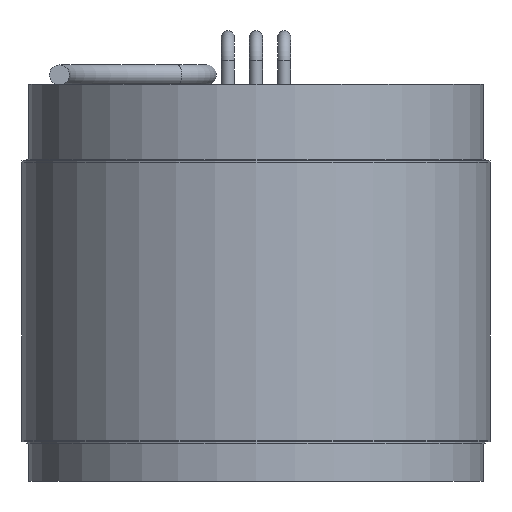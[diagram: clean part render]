
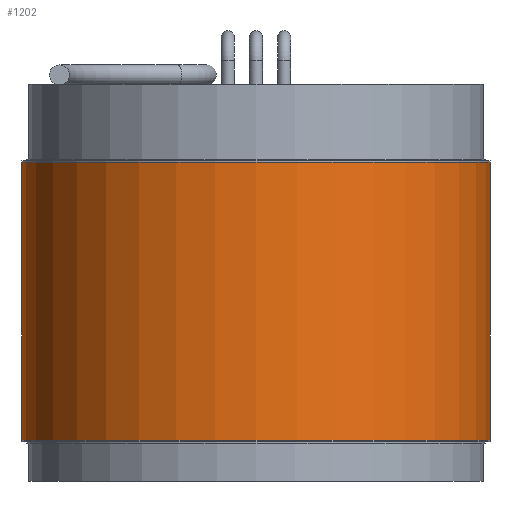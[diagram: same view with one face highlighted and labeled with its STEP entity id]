
A CAD part, front view. The second image highlights one B-rep face of the part: STEP entity #1202.
In plain terms, the highlighted cylindrical face has radius 31.75 mm (diameter 63.5 mm), a full revolution.
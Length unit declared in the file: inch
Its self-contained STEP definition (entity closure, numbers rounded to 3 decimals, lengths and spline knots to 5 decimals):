
#45 = ORIENTED_EDGE ( 'NONE', *, *, #632, .F. ) ;
#66 = CARTESIAN_POINT ( 'NONE',  ( 0., 0., 0.74213 ) ) ;
#154 = AXIS2_PLACEMENT_3D ( 'NONE', #66, #1272, #837 ) ;
#166 = DIRECTION ( 'NONE',  ( 0., 0., 1. ) ) ;
#176 = DIRECTION ( 'NONE',  ( 1., 0., 0. ) ) ;
#223 = CARTESIAN_POINT ( 'NONE',  ( 1.25, 0., -0.74213 ) ) ;
#342 = CARTESIAN_POINT ( 'NONE',  ( 1.25, 0., 0.74213 ) ) ;
#408 = EDGE_LOOP ( 'NONE', ( #646 ) ) ;
#474 = CIRCLE ( 'NONE', #154, 1.25 ) ;
#603 = CARTESIAN_POINT ( 'NONE',  ( 0., 0., -0.74213 ) ) ;
#618 = VERTEX_POINT ( 'NONE', #342 ) ;
#626 = EDGE_LOOP ( 'NONE', ( #45 ) ) ;
#632 = EDGE_CURVE ( 'NONE', #618, #618, #474, .T. ) ;
#646 = ORIENTED_EDGE ( 'NONE', *, *, #1205, .T. ) ;
#668 = AXIS2_PLACEMENT_3D ( 'NONE', #603, #936, #176 ) ;
#677 = CIRCLE ( 'NONE', #668, 1.25 ) ;
#723 = CARTESIAN_POINT ( 'NONE',  ( 0., 0., -0.76 ) ) ;
#837 = DIRECTION ( 'NONE',  ( 1., 0., 0. ) ) ;
#867 = VERTEX_POINT ( 'NONE', #223 ) ;
#936 = DIRECTION ( 'NONE',  ( 0., 0., 1. ) ) ;
#962 = FACE_OUTER_BOUND ( 'NONE', #626, .T. ) ;
#1058 = FACE_OUTER_BOUND ( 'NONE', #408, .T. ) ;
#1202 = ADVANCED_FACE ( 'NONE', ( #962, #1058 ), #1390, .T. ) ;
#1205 = EDGE_CURVE ( 'NONE', #867, #867, #677, .T. ) ;
#1263 = AXIS2_PLACEMENT_3D ( 'NONE', #723, #166, #1389 ) ;
#1272 = DIRECTION ( 'NONE',  ( 0., 0., 1. ) ) ;
#1389 = DIRECTION ( 'NONE',  ( 1., 0., 0. ) ) ;
#1390 = CYLINDRICAL_SURFACE ( 'NONE', #1263, 1.25 ) ;
